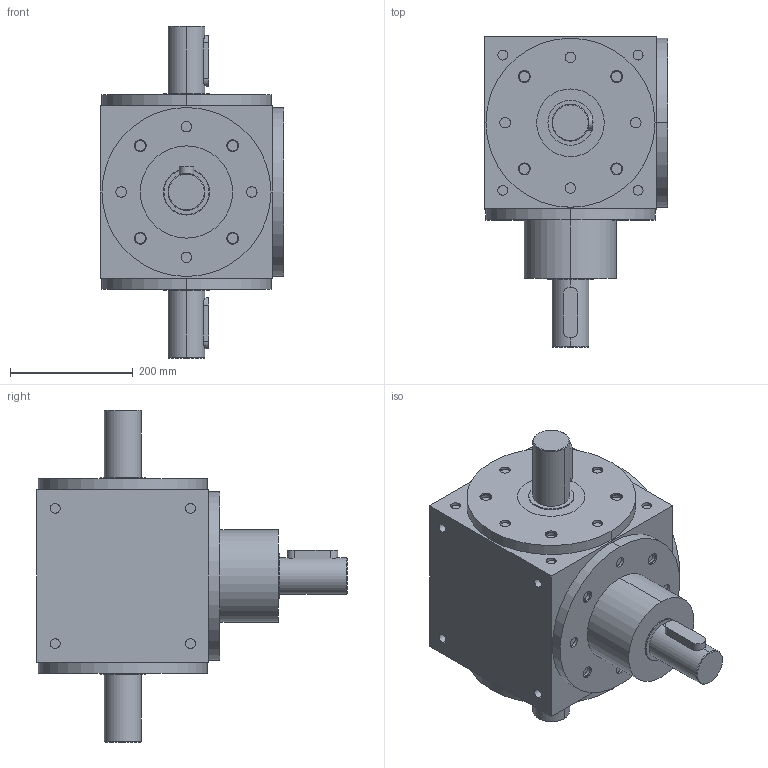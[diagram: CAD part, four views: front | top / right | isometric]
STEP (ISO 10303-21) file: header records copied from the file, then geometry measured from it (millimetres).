
FILE_DESCRIPTION (( 'STEP AP203' ), '1' );
FILE_NAME ('HD-28-1-D.step', '2018-04-27T07:28:08', ( 'Windows 蚚誧' ), ( '' ), 'SwSTEP 2.0', 'SolidWorks 2016', '' );
FILE_SCHEMA (( 'CONFIG_CONTROL_DESIGN' ));
Length unit declared in the file: millimetre
Products named in the file (1): HD-28-1-D
Bounding box: 298 x 505 x 540 mm (x, y, z)
Volume: 28845968.3 mm3; surface area: 1035793.6 mm2
Topology: 6 solids, 6 shells, 226 faces, 453 edges, 302 vertices
Faces by surface type: cylinder 134, plane 86, cone 6
Entity records: 6366 total; most frequent: CARTESIAN_POINT 1292, DIRECTION 1169, ORIENTED_EDGE 906, AXIS2_PLACEMENT_3D 499, EDGE_CURVE 453, VERTEX_POINT 302, EDGE_LOOP 289, CIRCLE 272
